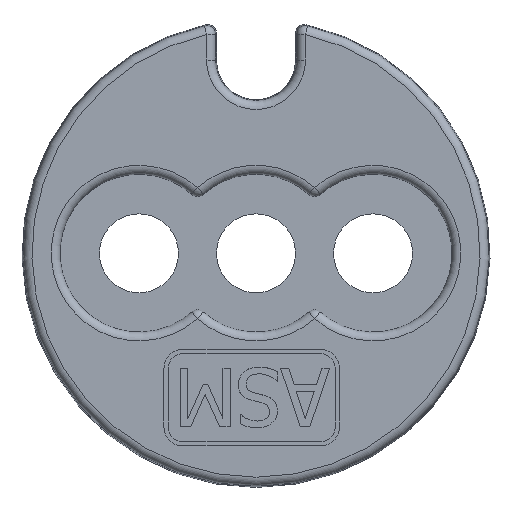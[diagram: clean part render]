
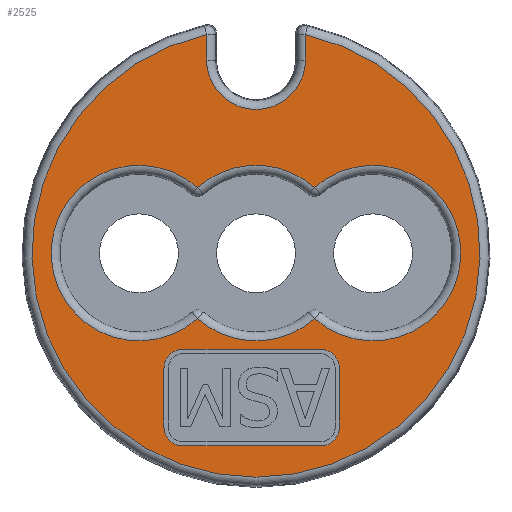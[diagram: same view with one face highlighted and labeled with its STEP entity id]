
A CAD part, top view. The second image highlights one B-rep face of the part: STEP entity #2525.
In plain terms, the highlighted planar face has unit normal (0, 0, 1).
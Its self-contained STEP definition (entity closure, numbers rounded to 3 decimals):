
#1744=CARTESIAN_POINT('',(-2.499,-6.592,5.0));
#1745=VERTEX_POINT('',#1744);
#1752=CARTESIAN_POINT('',(2.205,-6.592,5.0));
#1753=VERTEX_POINT('',#1752);
#1754=CARTESIAN_POINT('',(2.205,-6.592,5.0));
#1755=DIRECTION('',(-1.0,0.0,0.0));
#1756=VECTOR('',#1755,4.704);
#1757=LINE('',#1754,#1756);
#1758=EDGE_CURVE('',#1753,#1745,#1757,.T.);
#1784=CARTESIAN_POINT('',(2.852,-5.945,5.0));
#1785=VERTEX_POINT('',#1784);
#1786=CARTESIAN_POINT('',(2.205,-5.945,5.0));
#1787=DIRECTION('',(0.0,0.0,-1.0));
#1788=DIRECTION('',(0.,1.0,0.0));
#1789=AXIS2_PLACEMENT_3D('',#1786,#1787,#1788);
#1790=CIRCLE('',#1789,0.647);
#1791=EDGE_CURVE('',#1785,#1753,#1790,.T.);
#1816=CARTESIAN_POINT('',(2.852,-3.937,5.0));
#1817=VERTEX_POINT('',#1816);
#1818=CARTESIAN_POINT('',(2.852,-3.937,5.0));
#1819=DIRECTION('',(0.0,-1.0,0.0));
#1820=VECTOR('',#1819,2.008);
#1821=LINE('',#1818,#1820);
#1822=EDGE_CURVE('',#1817,#1785,#1821,.T.);
#1848=CARTESIAN_POINT('',(2.205,-3.29,5.0));
#1849=VERTEX_POINT('',#1848);
#1850=CARTESIAN_POINT('',(2.205,-3.937,5.0));
#1851=DIRECTION('',(0.0,0.0,-1.0));
#1852=DIRECTION('',(-1.0,0.,0.0));
#1853=AXIS2_PLACEMENT_3D('',#1850,#1851,#1852);
#1854=CIRCLE('',#1853,0.647);
#1855=EDGE_CURVE('',#1849,#1817,#1854,.T.);
#1880=CARTESIAN_POINT('',(-2.499,-3.29,5.0));
#1881=VERTEX_POINT('',#1880);
#1882=CARTESIAN_POINT('',(-2.499,-3.29,5.0));
#1883=DIRECTION('',(1.0,0.0,0.0));
#1884=VECTOR('',#1883,4.704);
#1885=LINE('',#1882,#1884);
#1886=EDGE_CURVE('',#1881,#1849,#1885,.T.);
#1912=CARTESIAN_POINT('',(-3.146,-3.937,5.0));
#1913=VERTEX_POINT('',#1912);
#1914=CARTESIAN_POINT('',(-2.499,-3.937,5.0));
#1915=DIRECTION('',(0.0,0.0,-1.0));
#1916=DIRECTION('',(0.,-1.0,0.0));
#1917=AXIS2_PLACEMENT_3D('',#1914,#1915,#1916);
#1918=CIRCLE('',#1917,0.647);
#1919=EDGE_CURVE('',#1913,#1881,#1918,.T.);
#1944=CARTESIAN_POINT('',(-3.146,-5.945,5.0));
#1945=VERTEX_POINT('',#1944);
#1946=CARTESIAN_POINT('',(-3.146,-5.945,5.0));
#1947=DIRECTION('',(0.0,1.0,0.0));
#1948=VECTOR('',#1947,2.008);
#1949=LINE('',#1946,#1948);
#1950=EDGE_CURVE('',#1945,#1913,#1949,.T.);
#1974=CARTESIAN_POINT('',(-2.499,-5.945,5.0));
#1975=DIRECTION('',(0.0,0.0,-1.0));
#1976=DIRECTION('',(1.0,0.,0.0));
#1977=AXIS2_PLACEMENT_3D('',#1974,#1975,#1976);
#1978=CIRCLE('',#1977,0.647);
#1979=EDGE_CURVE('',#1745,#1945,#1978,.T.);
#2436=CARTESIAN_POINT('',(0.,1.073,5.0));
#2437=DIRECTION('',(0.0,0.0,1.0));
#2438=DIRECTION('',(-1.0,0.0,0.0));
#2439=AXIS2_PLACEMENT_3D('',#2436,#2437,#2438);
#2440=PLANE('',#2439);
#2441=CARTESIAN_POINT('',(1.691,6.6,5.0));
#2442=VERTEX_POINT('',#2441);
#2443=CARTESIAN_POINT('',(1.691,7.47,5.0));
#2444=VERTEX_POINT('',#2443);
#2445=CARTESIAN_POINT('',(1.691,6.6,5.0));
#2446=DIRECTION('',(0.0,1.0,0.0));
#2447=VECTOR('',#2446,0.87);
#2448=LINE('',#2445,#2447);
#2449=EDGE_CURVE('',#2442,#2444,#2448,.T.);
#2450=ORIENTED_EDGE('',*,*,#2449,.F.);
#2451=CARTESIAN_POINT('',(-1.691,6.6,5.0));
#2452=VERTEX_POINT('',#2451);
#2453=CARTESIAN_POINT('',(0.,6.6,5.0));
#2454=DIRECTION('',(0.0,0.0,1.0));
#2455=DIRECTION('',(0.0,-1.0,0.0));
#2456=AXIS2_PLACEMENT_3D('',#2453,#2454,#2455);
#2457=CIRCLE('',#2456,1.691);
#2458=EDGE_CURVE('',#2452,#2442,#2457,.T.);
#2459=ORIENTED_EDGE('',*,*,#2458,.F.);
#2460=CARTESIAN_POINT('',(-1.691,7.47,5.0));
#2461=VERTEX_POINT('',#2460);
#2462=CARTESIAN_POINT('',(-1.691,7.47,5.0));
#2463=DIRECTION('',(0.0,-1.0,0.0));
#2464=VECTOR('',#2463,0.87);
#2465=LINE('',#2462,#2464);
#2466=EDGE_CURVE('',#2461,#2452,#2465,.T.);
#2467=ORIENTED_EDGE('',*,*,#2466,.F.);
#2468=CARTESIAN_POINT('',(0.0,0.0,5.0));
#2469=DIRECTION('',(0.0,0.0,-1.0));
#2470=DIRECTION('',(0.0,-1.0,0.0));
#2471=AXIS2_PLACEMENT_3D('',#2468,#2469,#2470);
#2472=CIRCLE('',#2471,7.659);
#2473=EDGE_CURVE('',#2444,#2461,#2472,.T.);
#2474=ORIENTED_EDGE('',*,*,#2473,.F.);
#2475=EDGE_LOOP('',(#2450,#2459,#2467,#2474));
#2476=FACE_OUTER_BOUND('',#2475,.T.);
#2477=CARTESIAN_POINT('',(2.0,-2.236,5.0));
#2478=VERTEX_POINT('',#2477);
#2479=CARTESIAN_POINT('',(2.0,2.236,5.0));
#2480=VERTEX_POINT('',#2479);
#2481=CARTESIAN_POINT('',(4.0,0.0,5.0));
#2482=DIRECTION('',(0.0,0.0,1.0));
#2483=DIRECTION('',(1.0,0.0,0.0));
#2484=AXIS2_PLACEMENT_3D('',#2481,#2482,#2483);
#2485=CIRCLE('',#2484,3.);
#2486=EDGE_CURVE('',#2478,#2480,#2485,.T.);
#2487=ORIENTED_EDGE('',*,*,#2486,.F.);
#2488=CARTESIAN_POINT('',(-2.0,-2.236,5.0));
#2489=VERTEX_POINT('',#2488);
#2490=CARTESIAN_POINT('',(0.0,0.0,5.0));
#2491=DIRECTION('',(0.0,0.0,1.0));
#2492=DIRECTION('',(0.0,-1.0,0.0));
#2493=AXIS2_PLACEMENT_3D('',#2490,#2491,#2492);
#2494=CIRCLE('',#2493,3.);
#2495=EDGE_CURVE('',#2489,#2478,#2494,.T.);
#2496=ORIENTED_EDGE('',*,*,#2495,.F.);
#2497=CARTESIAN_POINT('',(-2.,2.236,5.0));
#2498=VERTEX_POINT('',#2497);
#2499=CARTESIAN_POINT('',(-4.0,0.0,5.0));
#2500=DIRECTION('',(0.0,0.0,1.0));
#2501=DIRECTION('',(-1.0,0.0,0.0));
#2502=AXIS2_PLACEMENT_3D('',#2499,#2500,#2501);
#2503=CIRCLE('',#2502,3.);
#2504=EDGE_CURVE('',#2498,#2489,#2503,.T.);
#2505=ORIENTED_EDGE('',*,*,#2504,.F.);
#2506=CARTESIAN_POINT('',(0.0,0.0,5.0));
#2507=DIRECTION('',(0.0,0.0,1.0));
#2508=DIRECTION('',(0.0,1.0,0.0));
#2509=AXIS2_PLACEMENT_3D('',#2506,#2507,#2508);
#2510=CIRCLE('',#2509,3.);
#2511=EDGE_CURVE('',#2480,#2498,#2510,.T.);
#2512=ORIENTED_EDGE('',*,*,#2511,.F.);
#2513=EDGE_LOOP('',(#2487,#2496,#2505,#2512));
#2514=FACE_BOUND('',#2513,.T.);
#2515=ORIENTED_EDGE('',*,*,#1758,.T.);
#2516=ORIENTED_EDGE('',*,*,#1979,.T.);
#2517=ORIENTED_EDGE('',*,*,#1950,.T.);
#2518=ORIENTED_EDGE('',*,*,#1919,.T.);
#2519=ORIENTED_EDGE('',*,*,#1886,.T.);
#2520=ORIENTED_EDGE('',*,*,#1855,.T.);
#2521=ORIENTED_EDGE('',*,*,#1822,.T.);
#2522=ORIENTED_EDGE('',*,*,#1791,.T.);
#2523=EDGE_LOOP('',(#2515,#2516,#2517,#2518,#2519,#2520,#2521,#2522));
#2524=FACE_BOUND('',#2523,.T.);
#2525=ADVANCED_FACE('',(#2476,#2514,#2524),#2440,.T.);
